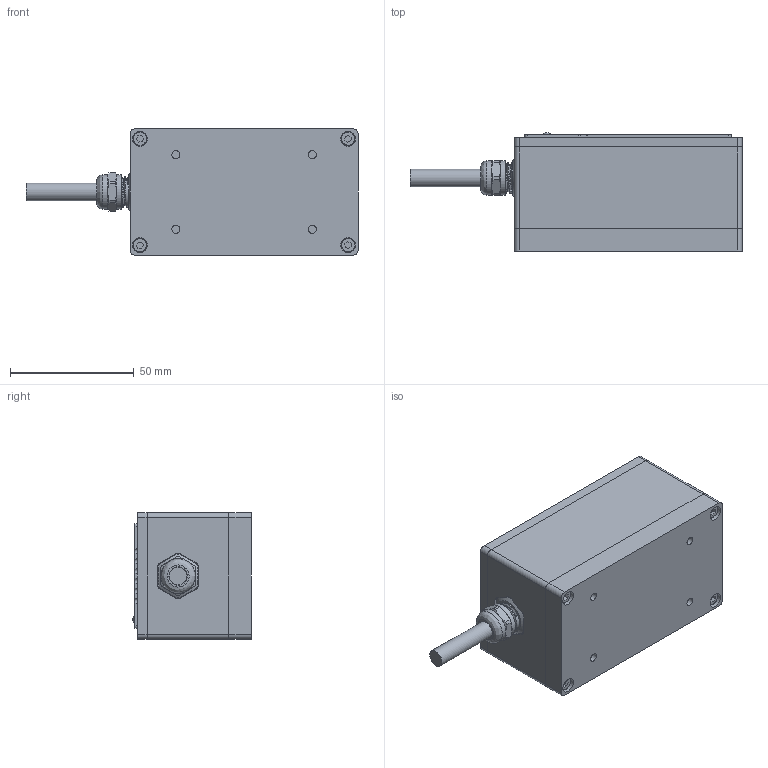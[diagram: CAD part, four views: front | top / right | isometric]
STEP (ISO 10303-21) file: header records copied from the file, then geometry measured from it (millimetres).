
FILE_DESCRIPTION (( 'STEP AP214' ), '1' );
FILE_NAME ('M4 Mega-外观（对外）A.STEP', '2023-12-15T09:00:57', ( '' ), ( '' ), 'SwSTEP 2.0', 'SolidWorks 2016', '' );
FILE_SCHEMA (( 'AUTOMOTIVE_DESIGN' ));
Length unit declared in the file: millimetre
Products named in the file (1): M4 Mega-外观（对外）A
Bounding box: 134 x 47.8 x 51 mm (x, y, z)
Volume: 43685.7 mm3; surface area: 50182.4 mm2
Topology: 16 solids, 16 shells, 458 faces, 1193 edges, 789 vertices
Faces by surface type: plane 251, cylinder 144, cone 34, bspline 20, torus 8, sphere 1
Full cylindrical faces by diameter (mm): 1.6 x6, 2.5 x4, 2.8 x1, 3 x4, 3.05 x1, 3.3 x4, 4.3 x1, 5.5 x4, 6 x4, 7 x3, 7.2 x1, 8.4 x1, 8.8 x2, 9.8 x1, 10.6 x1, 10.7 x1, 13.9 x2, 14.5 x2, 17.4 x2, 17.5 x2
Entity records: 23302 total; most frequent: CARTESIAN_POINT 7726, ORIENTED_EDGE 2176, DIRECTION 2162, EDGE_CURVE 1088, AXIS2_PLACEMENT_3D 794, VERTEX_POINT 757, EDGE_LOOP 589, VECTOR 574
